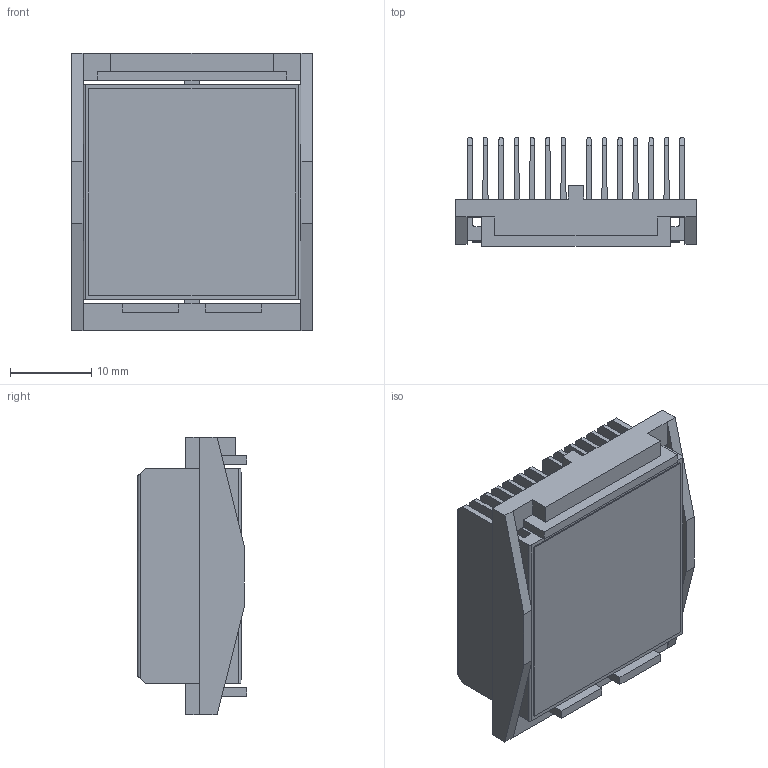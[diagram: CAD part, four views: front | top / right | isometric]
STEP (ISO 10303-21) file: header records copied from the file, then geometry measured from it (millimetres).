
FILE_DESCRIPTION (( 'STEP AP214' ), '1' );
FILE_NAME ('INL27001-13-1.7O.STEP', '2023-02-21T21:35:38', ( '' ), ( '' ), 'SwSTEP 2.0', 'SolidWorks 2020', '' );
FILE_SCHEMA (( 'AUTOMOTIVE_DESIGN' ));
Length unit declared in the file: millimetre
Products named in the file (1): INL27001-13-1.7O
Bounding box: 29.6 x 13.4 x 34.1 mm (x, y, z)
Volume: 4982.1 mm3; surface area: 12917.8 mm2
Topology: 3 solids, 3 shells, 168 faces, 488 edges, 324 vertices
Faces by surface type: plane 126, cylinder 42
Entity records: 7380 total; most frequent: CARTESIAN_POINT 1065, ORIENTED_EDGE 976, DIRECTION 854, EDGE_CURVE 488, LINE 404, VECTOR 404, VERTEX_POINT 324, AXIS2_PLACEMENT_3D 225
